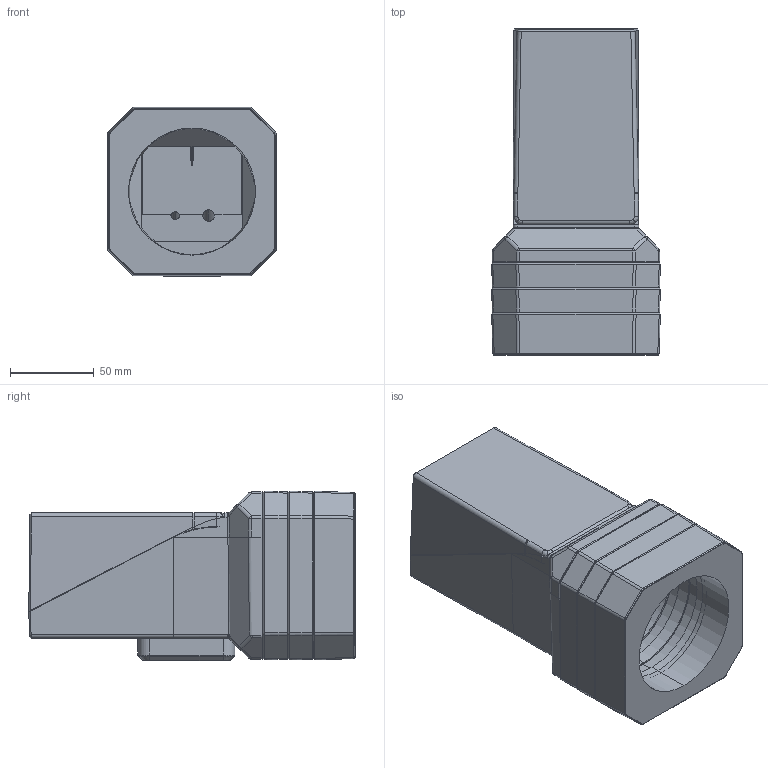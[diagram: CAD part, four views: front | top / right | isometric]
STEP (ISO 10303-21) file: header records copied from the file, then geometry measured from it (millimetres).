
FILE_DESCRIPTION (( 'STEP AP214' ), '1' );
FILE_NAME ('GET_CAM_XL_Housing_Outer_Topassy_2_2022-11-11.STEP', '2022-11-11T14:46:47', ( '' ), ( '' ), 'SwSTEP 2.0', 'SolidWorks 2020', '' );
FILE_SCHEMA (( 'AUTOMOTIVE_DESIGN' ));
Length unit declared in the file: millimetre
Products named in the file (5): GET_CAM_XL_Housing_Main_Outer_IM; GET_CAM_XL_ModuleRing_Outer_IM; GET_CAM_XL_Housing_Outer_Topassy_2_2022-11-11; GET_CAM_XL_Housing_Cap_Outer_IM; GET_CAM_XL_Housing_FrontRing_Outer_IM
Assembly tree (5 placements, depth 2):
  GET_CAM_XL_Housing_Outer_Topassy_2_2022-11-11
    GET_CAM_XL_Housing_Main_Outer_IM
    GET_CAM_XL_Housing_Cap_Outer_IM
    GET_CAM_XL_ModuleRing_Outer_IM  x2
    GET_CAM_XL_Housing_FrontRing_Outer_IM
Bounding box: 100.98 x 195.2 x 101.49 mm (x, y, z)
Volume: 614221.1 mm3; surface area: 174864.1 mm2
Topology: 5 solids, 5 shells, 552 faces, 1289 edges, 766 vertices
Faces by surface type: plane 192, cylinder 176, bspline 110, torus 38, cone 24, sphere 12
Entity records: 16278 total; most frequent: CARTESIAN_POINT 6054, ORIENTED_EDGE 2274, DIRECTION 1879, EDGE_CURVE 1137, AXIS2_PLACEMENT_3D 699, VERTEX_POINT 678, EDGE_LOOP 505, ADVANCED_FACE 483
